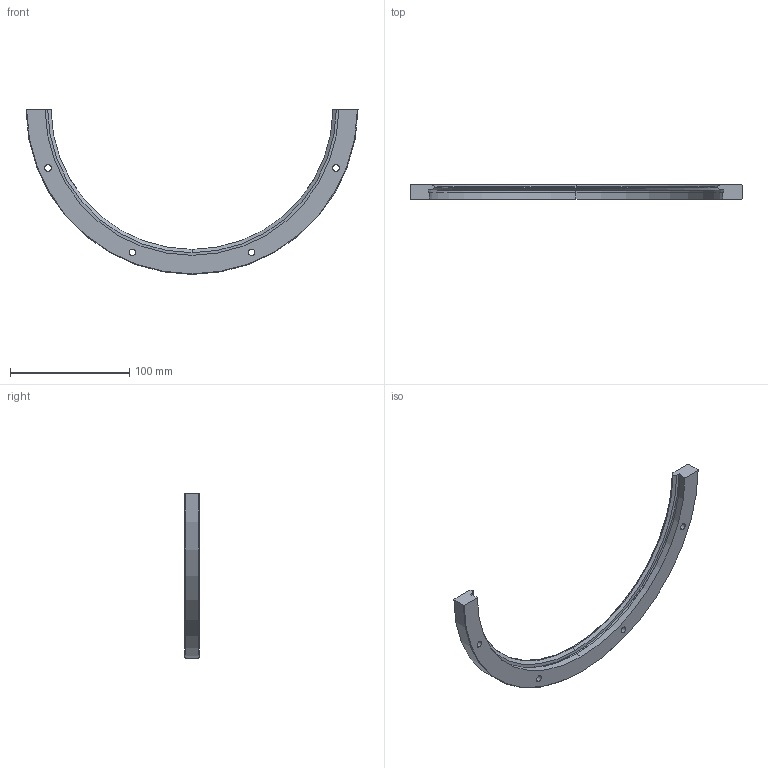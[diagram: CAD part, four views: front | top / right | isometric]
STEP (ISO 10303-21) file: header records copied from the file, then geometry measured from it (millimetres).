
FILE_DESCRIPTION(('STEP AP203'),'1');
FILE_NAME('ris_278_r180.stp','2021-08-30T05:52:02',('TraceParts'),('TraceParts S.A.'),'Spatial InterOp 3D',' ',' ');
FILE_SCHEMA(('CONFIG_CONTROL_DESIGN'));
Length unit declared in the file: millimetre
Products named in the file (1): 1
Bounding box: 277.99 x 12.25 x 138 mm (x, y, z)
Volume: 83766.7 mm3; surface area: 27359.1 mm2
Topology: 1 solids, 1 shells, 44 faces, 109 edges, 71 vertices
Faces by surface type: cylinder 22, plane 10, cone 8, torus 4
Entity records: 1413 total; most frequent: CARTESIAN_POINT 269, DIRECTION 247, ORIENTED_EDGE 218, EDGE_CURVE 109, AXIS2_PLACEMENT_3D 105, VERTEX_POINT 71, CIRCLE 60, EDGE_LOOP 56
